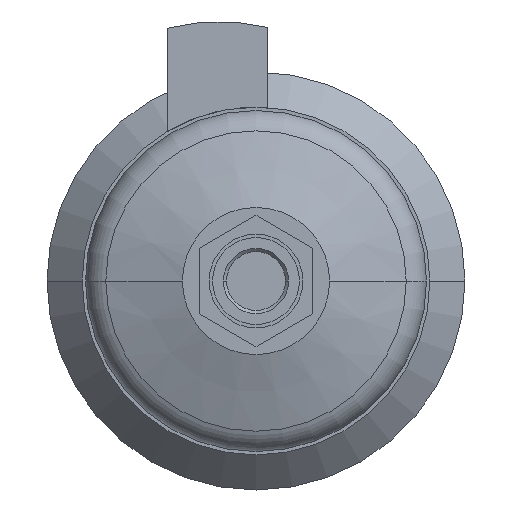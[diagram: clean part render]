
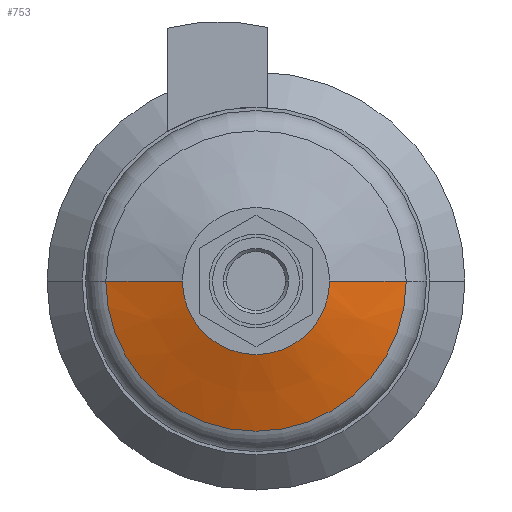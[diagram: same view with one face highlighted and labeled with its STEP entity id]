
A CAD part, front view. The second image highlights one B-rep face of the part: STEP entity #753.
In plain terms, the highlighted conical face has half-angle 71.115 degrees and reference radius 16.728 mm.
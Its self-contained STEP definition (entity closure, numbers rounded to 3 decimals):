
#186=CARTESIAN_POINT('',(0.,-246.5,0.));
#187=DIRECTION('',(0.,-1.,0.));
#188=DIRECTION('',(-1.,0.,0.));
#189=AXIS2_PLACEMENT_3D('',#186,#187,#188);
#204=CARTESIAN_POINT('',(0.,-242.581,0.));
#205=DIRECTION('',(0.,1.,0.));
#206=DIRECTION('',(1.,0.,0.));
#207=AXIS2_PLACEMENT_3D('',#204,#205,#206);
#209=DIRECTION('',(0.946,-0.324,0.));
#210=VECTOR('',#209,12.108);
#211=CARTESIAN_POINT('',(-22.457,-242.581,0.));
#212=LINE('',#211,#210);
#218=DIRECTION('',(-0.946,-0.324,0.));
#219=VECTOR('',#218,12.108);
#220=CARTESIAN_POINT('',(22.457,-242.581,0.));
#221=LINE('',#220,#219);
#611=CARTESIAN_POINT('',(22.457,-242.581,0.));
#612=VERTEX_POINT('',#611);
#621=CARTESIAN_POINT('',(-22.457,-242.581,0.));
#622=VERTEX_POINT('',#621);
#627=CARTESIAN_POINT('',(11.,-246.5,0.));
#628=CARTESIAN_POINT('',(-11.,-246.5,0.));
#629=VERTEX_POINT('',#627);
#630=VERTEX_POINT('',#628);
#739=CARTESIAN_POINT('',(0.,-244.54,0.));
#740=DIRECTION('',(0.,1.,0.));
#741=DIRECTION('',(1.,0.,0.));
#742=AXIS2_PLACEMENT_3D('',#739,#740,#741);
#743=CONICAL_SURFACE('',#742,16.728,71.115);
#744=ORIENTED_EDGE('',*,*,#729,.T.);
#746=ORIENTED_EDGE('',*,*,#745,.F.);
#748=ORIENTED_EDGE('',*,*,#747,.T.);
#750=ORIENTED_EDGE('',*,*,#749,.T.);
#751=EDGE_LOOP('',(#744,#746,#748,#750));
#752=FACE_OUTER_BOUND('',#751,.F.);
#753=ADVANCED_FACE('',(#752),#743,.T.);
#190=CIRCLE('',#189,11.);
#208=CIRCLE('',#207,22.457);
#729=EDGE_CURVE('',#630,#629,#190,.T.);
#745=EDGE_CURVE('',#612,#629,#221,.T.);
#747=EDGE_CURVE('',#612,#622,#208,.T.);
#749=EDGE_CURVE('',#622,#630,#212,.T.);
